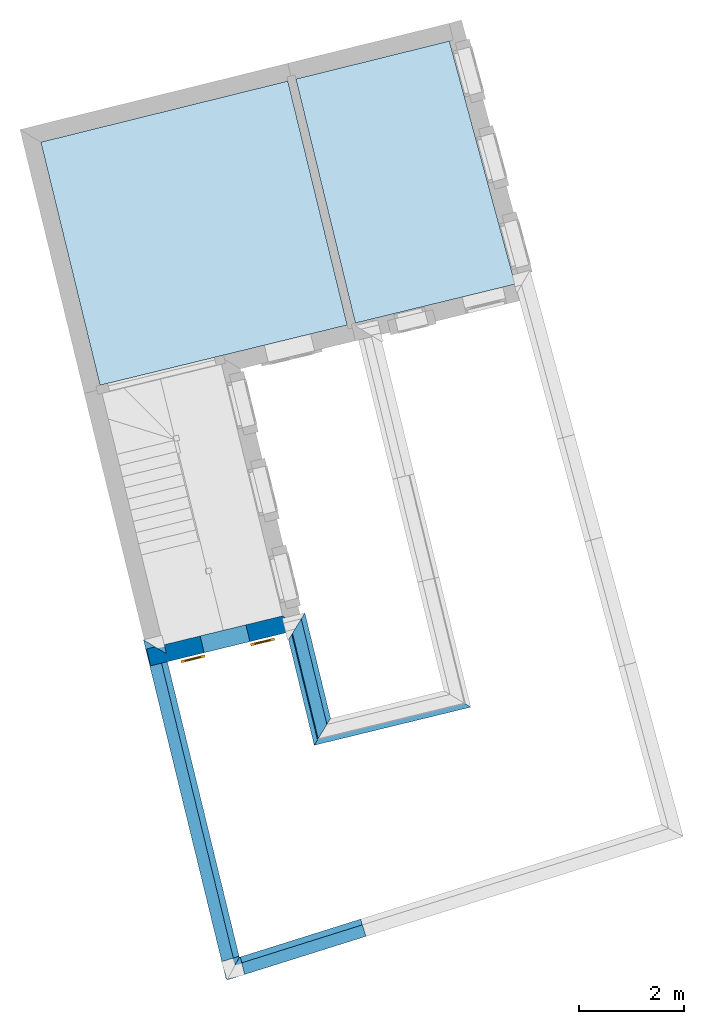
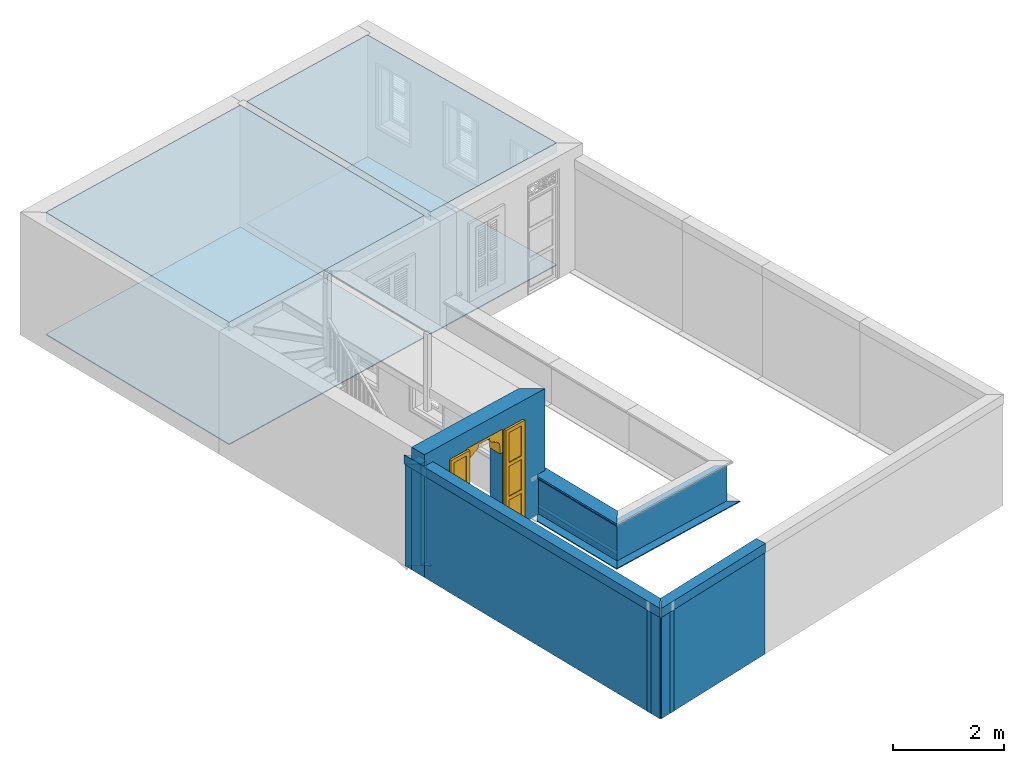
# One storey, part 1 of 9: 12 walls, 4 slabs, 1 door, 1 opening.
"""IFC4 building model written with IfcOpenShell, lengths in metres."""

from ifc_helpers import new_model, si_unit, frame, origin, origin_with_axes, place, context, subcontext, project, spatial, polyline, outline, extrude, clip, halfspace, faceted_brep, source, transform, mapped, material, layer, layer_set, layer_usage, material_profile, profile_set, profile_usage, type_object, type_shapes, element, fill, save


model = new_model("IFC4")

# Units and contexts
model_context = context("Model", 3, world=origin_with_axes())
body_context = subcontext(model_context, "Body", "Model", "MODEL_VIEW")
ifc_project = project(units=[si_unit("PLANEANGLEUNIT", "RADIAN"), si_unit("MASSUNIT", "GRAM", prefix="KILO"), si_unit("FORCEUNIT", "NEWTON", prefix="KILO"), si_unit("LENGTHUNIT", "METRE"), si_unit("AREAUNIT", "SQUARE_METRE"), si_unit("VOLUMEUNIT", "CUBIC_METRE")], contexts=[model_context, model_context])

# Site, building, storey
site_placement = place(None, origin_with_axes())
site = spatial("IfcSite", under=ifc_project, at=site_placement, Name="Site plot-4", CompositionType="ELEMENT")
building_placement = place(None, origin_with_axes())
building = spatial("IfcBuilding", under=site, at=building_placement, Name="Building plot-4", CompositionType="ELEMENT")
storey_placement = place(None, frame((0.0, 0.0, 2.7), z_axis=(0.0, 0.0, 1.0), x_axis=(1.0, 0.0, 0.0)))
storey = spatial("IfcBuildingStorey", under=building, at=storey_placement, Name="plot-4 1", CompositionType="ELEMENT", Elevation=2.7)

# Slabs
slab_1_placement = place(storey_placement, frame((22.3297005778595, 20.3816846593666, 2.5)))
element("IfcSlab", 1, at=slab_1_placement, inside=storey, Name="My Slab", ObjectType="Slab", PredefinedType="FLOOR", context=body_context, shape_type="SweptSolid", body=[
    extrude(outline(polyline([(0.0, 0.0), (1.13606950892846, -4.66513942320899), (4.18996666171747, -3.92144472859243), (2.93260132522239, 0.725816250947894), (0.0, 0.0)])), origin_with_axes(), (0.0, 0.0, 1.0), 0.2),
])
slab_2_placement = place(storey_placement, frame((22.3297005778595, 20.3816846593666, 0.0)))
element("IfcSlab", 2, at=slab_2_placement, inside=storey, Name="My Slab", ObjectType="Slab", PredefinedType="FLOOR", context=body_context, shape_type="SweptSolid", body=[
    extrude(outline(polyline([(0.0, 0.0), (1.13606950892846, -4.66513942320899), (4.18996666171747, -3.92144472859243), (2.93260132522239, 0.725816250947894), (0.0, 0.0)])), origin_with_axes(), (0.0, 0.0, 1.0), 0.02),
])
slab_3_placement = place(storey_placement, frame((22.1743857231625, 20.3432443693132, 2.5)))
element("IfcSlab", 3, at=slab_3_placement, inside=storey, Name="My Slab", ObjectType="Slab", PredefinedType="FLOOR", context=body_context, shape_type="SweptSolid", body=[
    extrude(outline(polyline([(0.0, 0.0), (-4.72148598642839, -1.16856363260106), (-3.58987403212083, -5.81539861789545), (1.13592754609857, -4.66455646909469), (0.0, 0.0)])), origin_with_axes(), (0.0, 0.0, 1.0), 0.2),
])
slab_4_placement = place(storey_placement, frame((22.1743857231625, 20.3432443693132, 0.0)))
element("IfcSlab", 4, at=slab_4_placement, inside=storey, Name="My Slab", ObjectType="Slab", PredefinedType="FLOOR", context=body_context, shape_type="SweptSolid", body=[
    extrude(outline(polyline([(0.0, 0.0), (-4.72148598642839, -1.16856363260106), (-3.58987403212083, -5.81539861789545), (1.13592754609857, -4.66455646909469), (0.0, 0.0)])), origin_with_axes(), (0.0, 0.0, 1.0), 0.02),
])

# Wall, opening, door
ifc_material = material(Name="Masonry")
ifc_layer = layer(ifc_material, 0.33, ventilated=False)
ifc_layer_set = layer_set([ifc_layer], Name="exterior_0.08_0.25")
ifc_layer_usage = layer_usage(ifc_layer_set, "AXIS2", "POSITIVE", -0.25)
wall_type_1 = type_object("IfcWallType", Name="exterior_0.08_0.25", PredefinedType="SOLIDWALL", material=ifc_layer_set)
wall_1_placement = place(storey_placement, frame((19.7347245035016, 9.46651698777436, 0.0), z_axis=(0.0, 0.0, 1.0), x_axis=(0.971605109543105, 0.236608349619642, 0.0)))
wall_1 = element("IfcWall", 5, at=wall_1_placement, inside=storey, type_object=wall_type_1, material=ifc_layer_usage, Name="exterior", context=body_context, shape_type="SweptSolid", body=[
    extrude(outline(polyline([(-0.250000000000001, 0.0799999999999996), (-0.25, -0.250000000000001), (2.7600184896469, -0.250000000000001), (2.43001848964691, 0.0800000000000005), (-0.250000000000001, 0.0799999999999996)])), origin_with_axes(), (0.0, 0.0, 1.0), 2.7),
])
opening_placement = place(wall_1_placement, frame((0.805009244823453, 0.0, 0.02)))
opening = element("IfcOpeningElement", 6, at=opening_placement, cuts=wall_1, Name="My Opening", ObjectType="Opening", context=body_context, shape_type="SweptSolid", body=[
    extrude(outline(polyline([(0.0, -0.270000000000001), (0.9, -0.27), (0.899999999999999, 1.1), (-1.66533453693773e-15, 1.1), (0.0, -0.270000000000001)])), origin_with_axes(), (0.0, 0.0, 1.0), 2.3),
])
door_type = type_object("IfcDoorType", Name="arch-900x2300", OperationType="SINGLE_SWING_LEFT", PredefinedType="NOTDEFINED")
shared_shape = source(origin(), body_context, "Body", "Brep", [
    faceted_brep([(-0.08, -0.02, 0.08), (-0.08, -0.02, 0.0), (-0.39, -0.02, 0.0), (-0.39, -0.02, 0.08), (-0.47, -0.02, 0.0), (-0.47, -0.02, 0.08), (-0.39, -0.035, 0.08), (-0.08, -0.035, 0.08), (0.0, -0.02, 0.08), (0.0, -0.02, 0.0), (-0.08, -0.066, 0.0), (-0.39, -0.066, 0.0), (-0.47, -0.066, 0.0), (-0.47, -0.066, 0.08), (-0.39, -0.02, 0.743333), (-0.47, -0.02, 0.743333), (-0.39, -0.035, 0.743333), (-0.08, -0.035, 0.743333), (-0.08, -0.02, 0.743333), (0.0, -0.02, 0.743333), (0.0, -0.066, 0.08), (0.0, -0.066, 0.0), (-0.39, -0.066, 0.08), (-0.08, -0.066, 0.08), (-0.47, -0.066, 0.743333), (-0.39, -0.02, 0.823333), (-0.47, -0.02, 0.823333), (0.0, -0.066, 0.743333), (0.0, -0.02, 0.823333), (-0.08, -0.02, 0.823333), (-0.08, -0.051, 0.08), (-0.39, -0.051, 0.08), (-0.39, -0.066, 0.743333), (-0.47, -0.066, 0.823333), (-0.39, -0.02, 1.486667), (-0.47, -0.02, 1.486667), (0.0, -0.066, 0.823333), (-0.08, -0.066, 0.743333), (0.0, -0.02, 1.486667), (-0.08, -0.02, 1.486667), (-0.08, -0.051, 0.743333), (-0.39, -0.051, 0.743333), (-0.39, -0.066, 0.823333), (-0.47, -0.066, 1.486667), (-0.39, -0.035, 0.823333), (-0.08, -0.035, 0.823333), (-0.39, -0.035, 1.486667), (-0.39, -0.02, 1.566667), (-0.47, -0.02, 1.566667), (0.0, -0.066, 1.486667), (-0.08, -0.066, 0.823333), (-0.08, -0.035, 1.486667), (0.0, -0.02, 1.566667), (-0.08, -0.02, 1.566667), (-0.39, -0.066, 1.486667), (-0.47, -0.066, 1.566667), (-0.39, -0.02, 2.23), (-0.47, -0.02, 2.23), (0.0, -0.066, 1.566667), (-0.08, -0.066, 1.486667), (0.0, -0.02, 2.23), (-0.08, -0.02, 2.23), (-0.08, -0.051, 0.823333), (-0.39, -0.051, 0.823333), (-0.39, -0.051, 1.486667), (-0.39, -0.066, 1.566667), (-0.47, -0.066, 2.23), (-0.39, -0.035, 1.566667), (-0.08, -0.035, 1.566667), (-0.39, -0.035, 2.23), (-0.39, -0.02, 2.31), (-0.47, -0.02, 2.31), (0.0, -0.066, 2.23), (-0.08, -0.066, 1.566667), (-0.08, -0.051, 1.486667), (-0.08, -0.035, 2.23), (0.0, -0.02, 2.31), (-0.08, -0.02, 2.31), (-0.39, -0.066, 2.23), (-0.47, -0.066, 2.31), (-0.39, -0.066, 2.31), (0.0, -0.066, 2.31), (-0.08, -0.066, 2.23), (-0.08, -0.066, 2.31), (-0.08, -0.051, 1.566667), (-0.39, -0.051, 1.566667), (-0.39, -0.051, 2.23), (-0.08, -0.051, 2.23), (1.29, -0.02, 0.08), (1.29, -0.02, 0.0), (0.98, -0.02, 0.0), (0.98, -0.02, 0.08), (1.37, -0.02, 0.08), (1.37, -0.02, 0.0), (0.98, -0.035, 0.08), (1.29, -0.035, 0.08), (0.9, -0.02, 0.0), (0.9, -0.02, 0.08), (1.29, -0.066, 0.0), (0.98, -0.066, 0.0), (1.37, -0.066, 0.08), (1.37, -0.066, 0.0), (1.37, -0.02, 0.743333), (1.29, -0.02, 0.743333), (1.29, -0.035, 0.743333), (0.98, -0.035, 0.743333), (0.98, -0.02, 0.743333), (0.9, -0.02, 0.743333), (0.9, -0.066, 0.0), (0.9, -0.066, 0.08), (0.98, -0.066, 0.08), (1.29, -0.066, 0.08), (1.37, -0.066, 0.743333), (1.37, -0.02, 0.823333), (1.29, -0.02, 0.823333), (0.9, -0.066, 0.743333), (0.98, -0.02, 0.823333), (0.9, -0.02, 0.823333), (1.29, -0.051, 0.08), (0.98, -0.051, 0.08), (1.29, -0.066, 0.743333), (1.37, -0.066, 0.823333), (1.37, -0.02, 1.486667), (1.29, -0.02, 1.486667), (0.9, -0.066, 0.823333), (0.98, -0.066, 0.743333), (0.98, -0.02, 1.486667), (0.9, -0.02, 1.486667), (0.98, -0.051, 0.743333), (1.29, -0.051, 0.743333), (1.29, -0.066, 0.823333), (1.37, -0.066, 1.486667), (0.98, -0.035, 0.823333), (1.29, -0.035, 0.823333), (1.29, -0.035, 1.486667), (1.37, -0.02, 1.566667), (1.29, -0.02, 1.566667), (0.9, -0.066, 1.486667), (0.98, -0.066, 0.823333), (0.98, -0.035, 1.486667), (0.98, -0.02, 1.566667), (0.9, -0.02, 1.566667), (1.29, -0.066, 1.486667), (1.37, -0.066, 1.566667), (1.37, -0.02, 2.23), (1.29, -0.02, 2.23), (0.9, -0.066, 1.566667), (0.98, -0.066, 1.486667), (0.98, -0.02, 2.23), (0.9, -0.02, 2.23), (1.29, -0.051, 0.823333), (0.98, -0.051, 0.823333), (1.29, -0.051, 1.486667), (1.29, -0.066, 1.566667), (1.37, -0.066, 2.23), (0.98, -0.035, 1.566667), (1.29, -0.035, 1.566667), (1.29, -0.035, 2.23), (1.37, -0.02, 2.31), (1.29, -0.02, 2.31), (0.9, -0.066, 2.23), (0.98, -0.066, 1.566667), (0.98, -0.051, 1.486667), (0.98, -0.035, 2.23), (0.98, -0.02, 2.31), (0.9, -0.02, 2.31), (1.29, -0.066, 2.23), (1.37, -0.066, 2.31), (1.29, -0.066, 2.31), (0.9, -0.066, 2.31), (0.98, -0.066, 2.23), (0.98, -0.066, 2.31), (1.29, -0.051, 1.566667), (0.98, -0.051, 1.566667), (1.29, -0.051, 2.23), (0.98, -0.051, 2.23), (0.9, 0.03, 1.78), (0.9, 0.03, 1.95), (0.84, 0.03, 1.95), (0.84, 0.03, 1.78), (0.84, 0.3, 1.95), (0.84, 0.3, 1.78), (0.9, 0.03, 2.12), (0.829, 0.03, 2.004), (0.9, 0.3, 1.78), (0.9, 0.3, 1.95), (0.829, 0.3, 2.004), (0.799, 0.03, 2.049), (0.9, 0.3, 2.12), (0.799, 0.3, 2.049), (0.754, 0.03, 2.079), (0.9, 0.3, 2.29), (0.9, 0.03, 2.29), (0.754, 0.3, 2.079), (0.7, 0.03, 2.09), (0.7, 0.03, 2.12), (0.654, 0.03, 2.129), (0.58, 0.3, 2.29), (0.58, 0.03, 2.29), (0.7, 0.3, 2.12), (0.654, 0.3, 2.129), (0.7, 0.3, 2.09), (0.615, 0.03, 2.155), (0.589, 0.3, 2.194), (0.58, 0.3, 2.24), (0.58, 0.03, 2.24), (0.589, 0.03, 2.194), (0.615, 0.3, 2.155), (0.06, 0.03, 1.78), (0.06, 0.03, 1.95), (0.0, 0.03, 1.95), (0.0, 0.03, 1.78), (0.06, 0.3, 1.78), (0.06, 0.3, 1.95), (0.071, 0.03, 2.004), (0.0, 0.03, 2.12), (0.0, 0.3, 1.95), (0.0, 0.3, 1.78), (0.071, 0.3, 2.004), (0.101, 0.03, 2.049), (0.0, 0.3, 2.12), (0.101, 0.3, 2.049), (0.146, 0.03, 2.079), (0.0, 0.03, 2.29), (0.0, 0.3, 2.29), (0.146, 0.3, 2.079), (0.2, 0.03, 2.12), (0.2, 0.03, 2.09), (0.246, 0.03, 2.129), (0.32, 0.03, 2.29), (0.32, 0.3, 2.29), (0.246, 0.3, 2.129), (0.2, 0.3, 2.12), (0.2, 0.3, 2.09), (0.285, 0.03, 2.155), (0.32, 0.3, 2.24), (0.311, 0.3, 2.194), (0.311, 0.03, 2.194), (0.32, 0.03, 2.24), (0.285, 0.3, 2.155)], [[[0, 1, 2, 3]], [[4, 5, 3, 2]], [[0, 3, 6, 7]], [[1, 0, 8, 9]], [[2, 1, 10, 11]], [[5, 4, 12, 13]], [[14, 3, 5, 15]], [[4, 2, 11, 12]], [[3, 14, 16, 6]], [[6, 16, 17, 7]], [[18, 0, 7, 17]], [[0, 18, 19, 8]], [[9, 8, 20, 21]], [[1, 9, 21, 10]], [[22, 11, 10, 23]], [[13, 12, 11, 22]], [[15, 5, 13, 24]], [[25, 14, 15, 26]], [[14, 18, 17, 16]], [[8, 19, 27, 20]], [[28, 19, 18, 29]], [[23, 10, 21, 20]], [[22, 23, 30, 31]], [[22, 32, 24, 13]], [[26, 15, 24, 33]], [[29, 18, 14, 25]], [[34, 25, 26, 35]], [[19, 28, 36, 27]], [[20, 27, 37, 23]], [[38, 28, 29, 39]], [[23, 37, 40, 30]], [[41, 31, 30, 40]], [[32, 22, 31, 41]], [[32, 42, 33, 24]], [[35, 26, 33, 43]], [[29, 25, 44, 45]], [[25, 34, 46, 44]], [[47, 34, 35, 48]], [[28, 38, 49, 36]], [[27, 36, 50, 37]], [[39, 29, 45, 51]], [[52, 38, 39, 53]], [[37, 32, 41, 40]], [[37, 50, 42, 32]], [[42, 54, 43, 33]], [[48, 35, 43, 55]], [[44, 46, 51, 45]], [[34, 39, 51, 46]], [[34, 47, 53, 39]], [[56, 47, 48, 57]], [[38, 52, 58, 49]], [[36, 49, 59, 50]], [[60, 52, 53, 61]], [[42, 50, 62, 63]], [[54, 42, 63, 64]], [[54, 65, 55, 43]], [[57, 48, 55, 66]], [[53, 47, 67, 68]], [[47, 56, 69, 67]], [[70, 56, 57, 71]], [[52, 60, 72, 58]], [[49, 58, 73, 59]], [[50, 59, 74, 62]], [[61, 53, 68, 75]], [[76, 60, 61, 77]], [[64, 63, 62, 74]], [[59, 54, 64, 74]], [[65, 54, 59, 73]], [[65, 78, 66, 55]], [[71, 57, 66, 79]], [[67, 69, 75, 68]], [[56, 61, 75, 69]], [[77, 61, 56, 70]], [[70, 71, 79, 80]], [[60, 76, 81, 72]], [[58, 72, 82, 73]], [[76, 77, 83, 81]], [[65, 73, 84, 85]], [[78, 65, 85, 86]], [[78, 80, 79, 66]], [[77, 70, 80, 83]], [[72, 81, 83, 82]], [[73, 82, 87, 84]], [[86, 85, 84, 87]], [[82, 78, 86, 87]], [[82, 83, 80, 78]], [[88, 89, 90, 91]], [[89, 88, 92, 93]], [[94, 95, 88, 91]], [[96, 97, 91, 90]], [[98, 99, 90, 89]], [[100, 101, 93, 92]], [[102, 92, 88, 103]], [[101, 98, 89, 93]], [[95, 104, 103, 88]], [[94, 105, 104, 95]], [[105, 94, 91, 106]], [[97, 107, 106, 91]], [[108, 109, 97, 96]], [[99, 108, 96, 90]], [[110, 99, 98, 111]], [[111, 98, 101, 100]], [[112, 100, 92, 102]], [[113, 102, 103, 114]], [[104, 105, 106, 103]], [[109, 115, 107, 97]], [[116, 106, 107, 117]], [[109, 108, 99, 110]], [[118, 119, 110, 111]], [[100, 112, 120, 111]], [[121, 112, 102, 113]], [[114, 103, 106, 116]], [[122, 113, 114, 123]], [[115, 124, 117, 107]], [[110, 125, 115, 109]], [[126, 116, 117, 127]], [[119, 128, 125, 110]], [[128, 119, 118, 129]], [[129, 118, 111, 120]], [[112, 121, 130, 120]], [[131, 121, 113, 122]], [[132, 133, 114, 116]], [[133, 134, 123, 114]], [[135, 122, 123, 136]], [[124, 137, 127, 117]], [[125, 138, 124, 115]], [[139, 132, 116, 126]], [[140, 126, 127, 141]], [[128, 129, 120, 125]], [[120, 130, 138, 125]], [[121, 131, 142, 130]], [[143, 131, 122, 135]], [[132, 139, 134, 133]], [[134, 139, 126, 123]], [[126, 140, 136, 123]], [[144, 135, 136, 145]], [[137, 146, 141, 127]], [[138, 147, 137, 124]], [[148, 140, 141, 149]], [[150, 151, 138, 130]], [[152, 150, 130, 142]], [[131, 143, 153, 142]], [[154, 143, 135, 144]], [[155, 156, 136, 140]], [[156, 157, 145, 136]], [[158, 144, 145, 159]], [[146, 160, 149, 141]], [[147, 161, 146, 137]], [[151, 162, 147, 138]], [[163, 155, 140, 148]], [[164, 148, 149, 165]], [[162, 151, 150, 152]], [[162, 152, 142, 147]], [[161, 147, 142, 153]], [[143, 154, 166, 153]], [[167, 154, 144, 158]], [[155, 163, 157, 156]], [[157, 163, 148, 145]], [[159, 145, 148, 164]], [[168, 167, 158, 159]], [[160, 169, 165, 149]], [[161, 170, 160, 146]], [[169, 171, 164, 165]], [[172, 173, 161, 153]], [[174, 172, 153, 166]], [[154, 167, 168, 166]], [[171, 168, 159, 164]], [[170, 171, 169, 160]], [[173, 175, 170, 161]], [[175, 173, 172, 174]], [[175, 174, 166, 170]], [[166, 168, 171, 170]], [[176, 177, 178, 179]], [[180, 181, 179, 178]], [[177, 182, 183, 178]], [[177, 176, 184, 185]], [[181, 184, 176, 179]], [[181, 180, 185, 184]], [[186, 180, 178, 183]], [[182, 187, 183]], [[182, 177, 185, 188]], [[180, 186, 188, 185]], [[189, 186, 183, 187]], [[182, 190, 187]], [[188, 191, 192, 182]], [[188, 186, 189]], [[193, 189, 187, 190]], [[194, 190, 182, 195]], [[182, 192, 196, 195]], [[192, 191, 197, 198]], [[199, 200, 191, 188]], [[188, 189, 193]], [[201, 193, 190, 194]], [[199, 201, 194, 195]], [[200, 199, 195, 196]], [[192, 202, 196]], [[191, 203, 204, 197]], [[192, 198, 205, 206]], [[207, 191, 200]], [[199, 188, 193, 201]], [[207, 200, 196, 202]], [[192, 206, 202]], [[204, 203, 206, 205]], [[203, 191, 207]], [[203, 207, 202, 206]], [[208, 209, 210, 211]], [[209, 208, 212, 213]], [[209, 214, 215, 210]], [[211, 210, 216, 217]], [[208, 211, 217, 212]], [[217, 216, 213, 212]], [[214, 209, 213, 218]], [[214, 219, 215]], [[220, 216, 210, 215]], [[216, 220, 218, 213]], [[219, 214, 218, 221]], [[219, 222, 215]], [[215, 223, 224, 220]], [[221, 218, 220]], [[222, 219, 221, 225]], [[226, 215, 222, 227]], [[226, 228, 223, 215]], [[229, 230, 224, 223]], [[220, 224, 231, 232]], [[225, 221, 220]], [[227, 222, 225, 233]], [[226, 227, 233, 232]], [[228, 226, 232, 231]], [[228, 234, 223]], [[230, 235, 236, 224]], [[237, 238, 229, 223]], [[231, 224, 239]], [[233, 225, 220, 232]], [[234, 228, 231, 239]], [[234, 237, 223]], [[238, 237, 236, 235]], [[239, 224, 236]], [[237, 234, 239, 236]], [[238, 235, 204, 205]], [[235, 230, 197, 204]], [[229, 238, 205, 198]], [[230, 229, 198, 197]]]),
])
type_shapes(door_type, [shared_shape])
door_placement = place(storey_placement, frame((20.5807598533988, 9.39465551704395, 0.02), z_axis=(0.0, 0.0, 1.0), x_axis=(0.874444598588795, 0.212947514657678, 0.0)))
door = element("IfcDoor", 7, at=door_placement, inside=storey, type_object=door_type, Name="circulation sahn door", OverallHeight=2.3, OverallWidth=0.9, context=body_context, shape_type="MappedRepresentation", body=[
    mapped(shared_shape, transform((0.0, 0.0, 0.0), scale=1.0)),
])
fill(opening, door)

# Walls
ifc_material_profile_1 = material_profile(None, outline(polyline([(0.25, 0.0), (0.25, 2.245), (0.05, 2.245), (0.05, 0.02), (-0.08, 0.02), (-0.08, 0.0), (0.25, 0.0)])))
ifc_profile_set_1 = profile_set([ifc_material_profile_1])
ifc_profile_usage_1 = profile_usage(ifc_profile_set_1)
wall_type_2 = type_object("IfcWallType", Name="parapet street_0", PredefinedType="PARAPET", material=ifc_profile_set_1)
wall_2_placement = place(storey_placement, frame((21.4903498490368, 2.53605363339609, 0.0), z_axis=(-0.300188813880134, 0.953879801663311, 0.0), x_axis=(-0.953879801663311, -0.300188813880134, 0.0)))
element("IfcWall", 8, at=wall_2_placement, inside=storey, type_object=wall_type_2, material=ifc_profile_usage_1, Name="parapet street_0", context=body_context, shape_type="Clipping", body=[
    clip(clip(extrude(outline(polyline([(0.25, 0.0), (0.25, 2.245), (0.05, 2.245), (0.05, 0.02), (-0.08, 0.02), (-0.08, 0.0), (0.25, 0.0)])), origin_with_axes(), (0.0, 0.0, 1.0), 2.1), halfspace(frame((0.0, 0.0, 1.1), z_axis=(3.82856869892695e-16, 0.0, -1.0), x_axis=(0.0, 1.0, 0.0)), True)), halfspace(frame((0.0, 0.0, 1.0), z_axis=(-0.707106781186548, 0.0, -0.707106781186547), x_axis=(0.0, 1.0, 0.0)), False)),
])
ifc_profile_usage_2 = profile_usage(ifc_profile_set_1)
wall_3_placement = place(storey_placement, frame((24.5435236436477, 4.5452466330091, 0.0), z_axis=(-0.953879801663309, -0.300188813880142, 0.0), x_axis=(0.300188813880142, -0.953879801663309, 0.0)))
element("IfcWall", 9, at=wall_3_placement, inside=storey, type_object=wall_type_2, material=ifc_profile_usage_2, Name="parapet street_0", context=body_context, shape_type="Clipping", body=[
    clip(clip(extrude(outline(polyline([(0.25, 0.0), (0.25, 2.245), (0.05, 2.245), (0.05, 0.02), (-0.08, 0.02), (-0.08, 0.0), (0.25, 0.0)])), origin_with_axes(), (0.0, 0.0, 1.0), 4.51549807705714), halfspace(frame((0.0, 0.0, 3.51549807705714), z_axis=(0.707106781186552, 0.0, -0.707106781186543), x_axis=(0.0, 1.0, 0.0)), True)), halfspace(frame((0.0, 0.0, 1.0), z_axis=(8.26946079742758e-16, 0.0, -1.0), x_axis=(0.0, 1.0, 0.0)), False)),
])
ifc_material_profile_2 = material_profile(None, outline(polyline([(0.265, 2.245), (0.265, 2.445), (0.035, 2.445), (0.035, 2.245), (0.265, 2.245)])))
ifc_profile_set_2 = profile_set([ifc_material_profile_2])
ifc_profile_usage_3 = profile_usage(ifc_profile_set_2)
wall_type_3 = type_object("IfcWallType", Name="parapet street_1", PredefinedType="PARAPET", material=ifc_profile_set_2)
wall_4_placement = place(storey_placement, frame((24.5435236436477, 4.5452466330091, 0.0), z_axis=(-0.953879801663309, -0.300188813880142, 0.0), x_axis=(0.300188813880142, -0.953879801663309, 0.0)))
element("IfcWall", 10, at=wall_4_placement, inside=storey, type_object=wall_type_3, material=ifc_profile_usage_3, Name="parapet street_1", context=body_context, shape_type="Clipping", body=[
    clip(clip(extrude(outline(polyline([(0.265, 2.245), (0.265, 2.445), (0.035, 2.445), (0.035, 2.245), (0.265, 2.245)])), origin_with_axes(), (0.0, 0.0, 1.0), 4.51549807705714), halfspace(frame((0.0, 0.0, 3.51549807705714), z_axis=(0.707106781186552, 0.0, -0.707106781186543), x_axis=(0.0, 1.0, 0.0)), True)), halfspace(frame((0.0, 0.0, 1.0), z_axis=(8.26946079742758e-16, 0.0, -1.0), x_axis=(0.0, 1.0, 0.0)), False)),
])
ifc_material_profile_3 = material_profile(None, outline(polyline([(0.25, 0.0), (0.25, 2.245), (0.05, 2.245), (0.05, 0.02), (-0.08, 0.02), (-0.08, 0.0), (0.25, 0.0)])))
ifc_profile_set_3 = profile_set([ifc_material_profile_3])
ifc_profile_usage_4 = profile_usage(ifc_profile_set_3)
wall_type_4 = type_object("IfcWallType", Name="parapet party_0", PredefinedType="PARAPET", material=ifc_profile_set_3)
wall_5_placement = place(storey_placement, frame((18.7631193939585, 9.22990863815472, 0.0), z_axis=(0.971605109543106, 0.23660834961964, 0.0), x_axis=(-0.23660834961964, 0.971605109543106, 0.0)))
element("IfcWall", 11, at=wall_5_placement, inside=storey, type_object=wall_type_4, material=ifc_profile_usage_4, Name="parapet party_0", context=body_context, shape_type="Clipping", body=[
    clip(clip(extrude(outline(polyline([(0.25, 0.0), (0.25, 2.245), (0.05, 2.245), (0.05, 0.02), (-0.08, 0.02), (-0.08, 0.0), (0.25, 0.0)])), origin_with_axes(), (0.0, 0.0, 1.0), 2.1), halfspace(frame((0.0, 0.0, 1.1), z_axis=(-6.12323399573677e-17, 0.0, -1.0), x_axis=(0.0, 1.0, 0.0)), True)), halfspace(frame((0.0, 0.0, 1.0), z_axis=(-0.707106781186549, 0.0, -0.707106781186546), x_axis=(0.0, 1.0, 0.0)), False)),
])
ifc_profile_usage_5 = profile_usage(ifc_profile_set_3)
wall_6_placement = place(storey_placement, frame((21.4267693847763, 2.5183283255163, 0.0), z_axis=(-0.236608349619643, 0.971605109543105, 0.0), x_axis=(-0.971605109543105, -0.236608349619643, 0.0)))
element("IfcWall", 12, at=wall_6_placement, inside=storey, type_object=wall_type_4, material=ifc_profile_usage_5, Name="parapet party_0", context=body_context, shape_type="Clipping", body=[
    clip(clip(extrude(outline(polyline([(0.25, 0.0), (0.25, 2.245), (0.05, 2.245), (0.05, 0.02), (-0.08, 0.02), (-0.08, 0.0), (0.25, 0.0)])), origin_with_axes(), (0.0, 0.0, 1.0), 8.15124755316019), halfspace(frame((0.0, 0.0, 7.15124755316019), z_axis=(0.707106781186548, 0.0, -0.707106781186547), x_axis=(0.0, 1.0, 0.0)), True)), halfspace(frame((0.0, 0.0, 1.0), z_axis=(-0.707106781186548, 0.0, -0.707106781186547), x_axis=(0.0, 1.0, 0.0)), False)),
])
ifc_profile_usage_6 = profile_usage(ifc_profile_set_3)
wall_7_placement = place(storey_placement, frame((22.2589266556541, 3.75020261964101, 0.0), z_axis=(-0.971605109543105, -0.236608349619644, 0.0), x_axis=(0.236608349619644, -0.971605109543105, 0.0)))
element("IfcWall", 13, at=wall_7_placement, inside=storey, type_object=wall_type_4, material=ifc_profile_usage_6, Name="parapet party_0", context=body_context, shape_type="Clipping", body=[
    clip(clip(extrude(outline(polyline([(0.25, 0.0), (0.25, 2.245), (0.05, 2.245), (0.05, 0.02), (-0.08, 0.02), (-0.08, 0.0), (0.25, 0.0)])), origin_with_axes(), (0.0, 0.0, 1.0), 2.1), halfspace(frame((0.0, 0.0, 1.1), z_axis=(0.707106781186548, 0.0, -0.707106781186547), x_axis=(0.0, 1.0, 0.0)), True)), halfspace(frame((0.0, 0.0, 1.0), z_axis=(8.26946079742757e-16, 0.0, -1.0), x_axis=(0.0, 1.0, 0.0)), False)),
])
ifc_material_profile_4 = material_profile(None, outline(polyline([(0.265, 2.245), (0.265, 2.445), (0.035, 2.445), (0.035, 2.245), (0.265, 2.245)])))
ifc_profile_set_4 = profile_set([ifc_material_profile_4])
ifc_profile_usage_7 = profile_usage(ifc_profile_set_4)
wall_type_5 = type_object("IfcWallType", Name="parapet party_1", PredefinedType="PARAPET", material=ifc_profile_set_4)
wall_8_placement = place(storey_placement, frame((21.4267693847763, 2.5183283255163, 0.0), z_axis=(-0.236608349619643, 0.971605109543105, 0.0), x_axis=(-0.971605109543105, -0.236608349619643, 0.0)))
element("IfcWall", 14, at=wall_8_placement, inside=storey, type_object=wall_type_5, material=ifc_profile_usage_7, Name="parapet party_1", context=body_context, shape_type="Clipping", body=[
    clip(clip(extrude(outline(polyline([(0.265, 2.245), (0.265, 2.445), (0.035, 2.445), (0.035, 2.245), (0.265, 2.245)])), origin_with_axes(), (0.0, 0.0, 1.0), 8.15124755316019), halfspace(frame((0.0, 0.0, 7.15124755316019), z_axis=(0.707106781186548, 0.0, -0.707106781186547), x_axis=(0.0, 1.0, 0.0)), True)), halfspace(frame((0.0, 0.0, 1.0), z_axis=(-0.707106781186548, 0.0, -0.707106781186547), x_axis=(0.0, 1.0, 0.0)), False)),
])
ifc_material_profile_5 = material_profile(None, outline(polyline([(0.25, 0.0), (0.25, 0.795), (0.09, 0.795), (0.09, 0.02), (-0.08, 0.02), (-0.08, 0.0), (0.25, 0.0)])))
ifc_profile_set_5 = profile_set([ifc_material_profile_5])
ifc_profile_usage_8 = profile_usage(ifc_profile_set_5)
wall_type_6 = type_object("IfcWallType", Name="parapet internal_0", PredefinedType="PARAPET", material=ifc_profile_set_5)
wall_9_placement = place(storey_placement, frame((21.7666155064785, 7.50472150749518, 0.0), z_axis=(0.971605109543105, 0.236608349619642, 0.0), x_axis=(-0.236608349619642, 0.971605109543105, 0.0)))
element("IfcWall", 15, at=wall_9_placement, inside=storey, type_object=wall_type_6, material=ifc_profile_usage_8, Name="parapet internal_0", context=body_context, shape_type="Clipping", body=[
    clip(clip(extrude(outline(polyline([(0.25, 0.0), (0.25, 0.795), (0.09, 0.795), (0.09, 0.02), (-0.08, 0.02), (-0.08, 0.0), (0.25, 0.0)])), origin_with_axes(), (0.0, 0.0, 1.0), 4.92117269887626), halfspace(frame((0.0, 0.0, 3.92117269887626), z_axis=(-0.707106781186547, 0.0, -0.707106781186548), x_axis=(0.0, 1.0, 0.0)), True)), halfspace(frame((0.0, 0.0, 1.0), z_axis=(0.70710678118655, 0.0, -0.707106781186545), x_axis=(0.0, 1.0, 0.0)), False)),
])
ifc_profile_usage_9 = profile_usage(ifc_profile_set_5)
wall_10_placement = place(storey_placement, frame((22.0102115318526, 10.7308158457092, 0.0), z_axis=(0.236608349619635, -0.971605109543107, 0.0), x_axis=(0.971605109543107, 0.236608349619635, 0.0)))
element("IfcWall", 16, at=wall_10_placement, inside=storey, type_object=wall_type_6, material=ifc_profile_usage_9, Name="parapet internal_0", context=body_context, shape_type="Clipping", body=[
    clip(clip(extrude(outline(polyline([(0.25, 0.0), (0.25, 0.795), (0.09, 0.795), (0.09, 0.02), (-0.08, 0.02), (-0.08, 0.0), (0.25, 0.0)])), origin_with_axes(), (0.0, 0.0, 1.0), 4.07685288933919), halfspace(frame((0.0, 0.0, 3.07685288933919), z_axis=(-0.70710678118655, 0.0, -0.707106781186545), x_axis=(0.0, 1.0, 0.0)), True)), halfspace(frame((0.0, 0.0, 1.0), z_axis=(-0.707106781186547, 0.0, -0.707106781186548), x_axis=(0.0, 1.0, 0.0)), False)),
])
ifc_material_profile_6 = material_profile(None, outline(polyline([(0.265, 0.795), (0.268, 0.807), (0.274, 0.816), (0.283, 0.822), (0.295, 0.825), (0.295, 0.84), (0.305, 0.84), (0.317, 0.842), (0.326, 0.849), (0.333, 0.858), (0.335, 0.87), (0.333, 0.882), (0.326, 0.891), (0.317, 0.898), (0.305, 0.9), (0.035, 0.9), (0.023, 0.898), (0.014, 0.891), (0.007, 0.882), (0.005, 0.87), (0.007, 0.858), (0.014, 0.849), (0.023, 0.842), (0.035, 0.84), (0.045, 0.84), (0.045, 0.825), (0.057, 0.822), (0.066, 0.816), (0.072, 0.807), (0.075, 0.795), (0.265, 0.795)])))
ifc_profile_set_6 = profile_set([ifc_material_profile_6])
ifc_profile_usage_10 = profile_usage(ifc_profile_set_6)
wall_type_7 = type_object("IfcWallType", Name="parapet internal_1", PredefinedType="PARAPET", material=ifc_profile_set_6)
wall_11_placement = place(storey_placement, frame((22.0102115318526, 10.7308158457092, 0.0), z_axis=(0.236608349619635, -0.971605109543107, 0.0), x_axis=(0.971605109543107, 0.236608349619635, 0.0)))
element("IfcWall", 17, at=wall_11_placement, inside=storey, type_object=wall_type_7, material=ifc_profile_usage_10, Name="parapet internal_1", context=body_context, shape_type="Clipping", body=[
    clip(clip(extrude(outline(polyline([(0.265, 0.795), (0.268, 0.807), (0.274, 0.816), (0.283, 0.822), (0.295, 0.825), (0.295, 0.84), (0.305, 0.84), (0.317, 0.842), (0.326, 0.849), (0.333, 0.858), (0.335, 0.87), (0.333, 0.882), (0.326, 0.891), (0.317, 0.898), (0.305, 0.9), (0.035, 0.9), (0.023, 0.898), (0.014, 0.891), (0.007, 0.882), (0.005, 0.87), (0.007, 0.858), (0.014, 0.849), (0.023, 0.842), (0.035, 0.84), (0.045, 0.84), (0.045, 0.825), (0.057, 0.822), (0.066, 0.816), (0.072, 0.807), (0.075, 0.795), (0.265, 0.795)])), origin_with_axes(), (0.0, 0.0, 1.0), 4.07685288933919), halfspace(frame((0.0, 0.0, 3.07685288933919), z_axis=(-0.70710678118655, 0.0, -0.707106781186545), x_axis=(0.0, 1.0, 0.0)), True)), halfspace(frame((0.0, 0.0, 1.0), z_axis=(-0.707106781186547, 0.0, -0.707106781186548), x_axis=(0.0, 1.0, 0.0)), False)),
])
ifc_material_profile_7 = material_profile(None, outline(polyline([(0.25, -0.1), (0.265, -0.1), (0.265, -0.085), (0.278, -0.084), (0.289, -0.081), (0.301, -0.074), (0.309, -0.065), (0.315, -0.055), (0.324, -0.044), (0.334, -0.038), (0.345, -0.035), (0.345, -0.015), (0.25, 0.0), (0.25, -0.1)])))
ifc_profile_set_7 = profile_set([ifc_material_profile_7])
ifc_profile_usage_11 = profile_usage(ifc_profile_set_7)
wall_type_8 = type_object("IfcWallType", Name="parapet internal_2", PredefinedType="PARAPET", material=ifc_profile_set_7)
wall_12_placement = place(storey_placement, frame((22.0102115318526, 10.7308158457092, 0.0), z_axis=(0.236608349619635, -0.971605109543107, 0.0), x_axis=(0.971605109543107, 0.236608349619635, 0.0)))
element("IfcWall", 18, at=wall_12_placement, inside=storey, type_object=wall_type_8, material=ifc_profile_usage_11, Name="parapet internal_2", context=body_context, shape_type="Clipping", body=[
    clip(clip(extrude(outline(polyline([(0.25, -0.1), (0.265, -0.1), (0.265, -0.085), (0.278, -0.084), (0.289, -0.081), (0.301, -0.074), (0.309, -0.065), (0.315, -0.055), (0.324, -0.044), (0.334, -0.038), (0.345, -0.035), (0.345, -0.015), (0.25, 0.0), (0.25, -0.1)])), origin_with_axes(), (0.0, 0.0, 1.0), 4.07685288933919), halfspace(frame((0.0, 0.0, 3.07685288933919), z_axis=(-0.70710678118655, 0.0, -0.707106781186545), x_axis=(0.0, 1.0, 0.0)), True)), halfspace(frame((0.0, 0.0, 1.0), z_axis=(-0.707106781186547, 0.0, -0.707106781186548), x_axis=(0.0, 1.0, 0.0)), False)),
])

save(model, "model.ifc")
